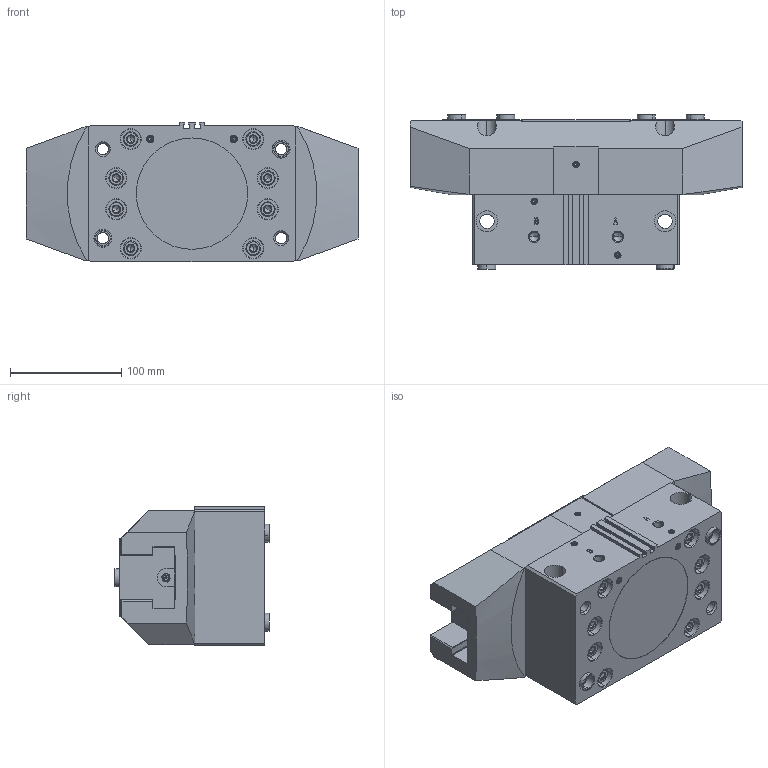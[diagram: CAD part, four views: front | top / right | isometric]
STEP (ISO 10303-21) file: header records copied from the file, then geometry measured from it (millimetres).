
FILE_DESCRIPTION (( 'STEP AP214' ), '1' );
FILE_NAME ('HP-NTS230-M-Assy-61G293459-20241126-OC.STEP', '2024-11-26T03:18:52', ( '' ), ( '' ), 'SwSTEP 2.0', 'SolidWorks 2022', '' );
FILE_SCHEMA (( 'AUTOMOTIVE_DESIGN' ));
Length unit declared in the file: millimetre
Products named in the file (11): BOLT^HP-NTS230-M; BODY^HP-NTS230-M; S-TOME1^HP-NTS230-M; MASTER JAW^HP-NTS230-M_グリスニップル仕様; HP-NTS230-M-Assy-61G293459-20241126-OC; GREASE NIPPLE^HP-NTS230-M; S-TOME2^HP-NTS230-M; COVER^HP-NTS230-M; BUSH^HP-NTS230-M; S-SARA^HP-NTS230-M; REAR BODY^HP-NTS230-M
Assembly tree (30 placements, depth 2):
  HP-NTS230-M-Assy-61G293459-20241126-OC
    BODY^HP-NTS230-M
    REAR BODY^HP-NTS230-M
    MASTER JAW^HP-NTS230-M_グリスニップル仕様  x2
    COVER^HP-NTS230-M
    BUSH^HP-NTS230-M  x6
    BOLT^HP-NTS230-M  x8
    S-TOME1^HP-NTS230-M  x3
    S-TOME2^HP-NTS230-M  x2
    S-SARA^HP-NTS230-M  x4
    GREASE NIPPLE^HP-NTS230-M  x2
Bounding box: 298 x 138.7 x 125 mm (x, y, z)
Volume: 3284880.2 mm3; surface area: 383112.5 mm2
Topology: 30 solids, 30 shells, 973 faces, 2315 edges, 1425 vertices
Faces by surface type: plane 383, cone 294, cylinder 248, torus 28, bspline 16, sphere 4
Entity records: 18132 total; most frequent: CARTESIAN_POINT 4397, DIRECTION 2694, ORIENTED_EDGE 2574, EDGE_CURVE 1287, AXIS2_PLACEMENT_3D 986, VERTEX_POINT 813, VECTOR 722, LINE 722
